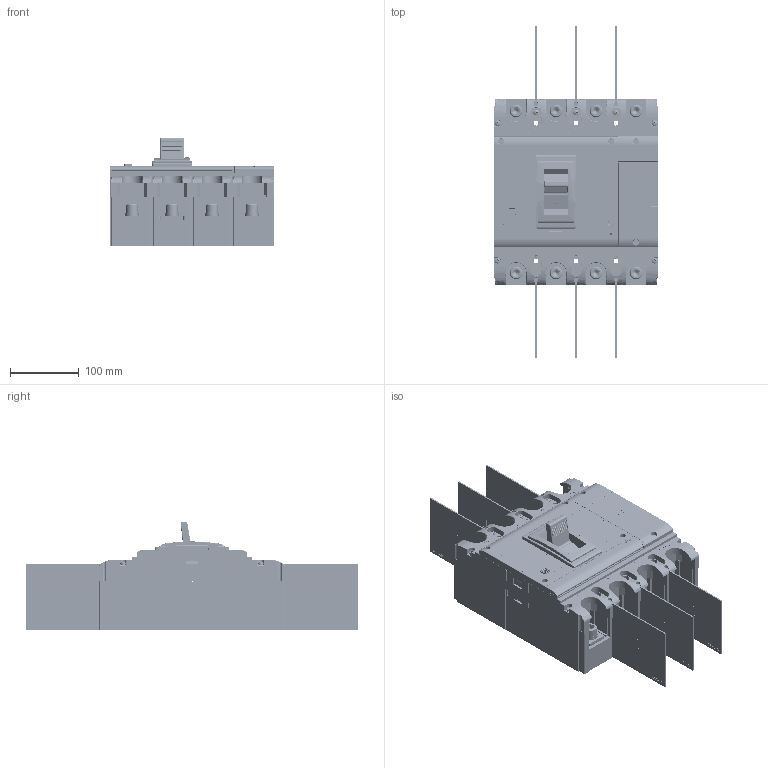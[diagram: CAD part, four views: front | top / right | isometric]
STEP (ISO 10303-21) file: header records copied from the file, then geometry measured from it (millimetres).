
FILE_DESCRIPTION (( 'STEP AP214' ), '1' );
FILE_NAME ('TGM1NE 630s-4p-biaozhunxing.STEP', '2025-12-03T07:33:11', ( '' ), ( '' ), 'SwSTEP 2.0', 'SolidWorks 2024', '' );
FILE_SCHEMA (( 'AUTOMOTIVE_DESIGN' ));
Products named in the file (3): TGM1NE 630s-4p-biaozhunxing; TGM1NE 630s-4p-biaozhunxing.stp; 2TZD_259_6098_2_SW0001_1.stp
Assembly tree (2 placements, depth 3):
  TGM1NE 630s-4p-biaozhunxing
    TGM1NE 630s-4p-biaozhunxing.stp
      2TZD_259_6098_2_SW0001_1.stp
Bounding box: 239 x 482 x 158.1 mm (x, y, z)
Volume: 2753801.9 mm3; surface area: 1089168.6 mm2
Topology: 1 solids, 1 shells, 9456 faces, 25863 edges, 16555 vertices
Faces by surface type: plane 6947, cylinder 1750, bspline 326, cone 191, sphere 132, torus 110
Entity records: 321631 total; most frequent: CARTESIAN_POINT 83584, ORIENTED_EDGE 51490, DIRECTION 46402, EDGE_CURVE 25745, LINE 20476, VECTOR 20476, VERTEX_POINT 16537, AXIS2_PLACEMENT_3D 12963
